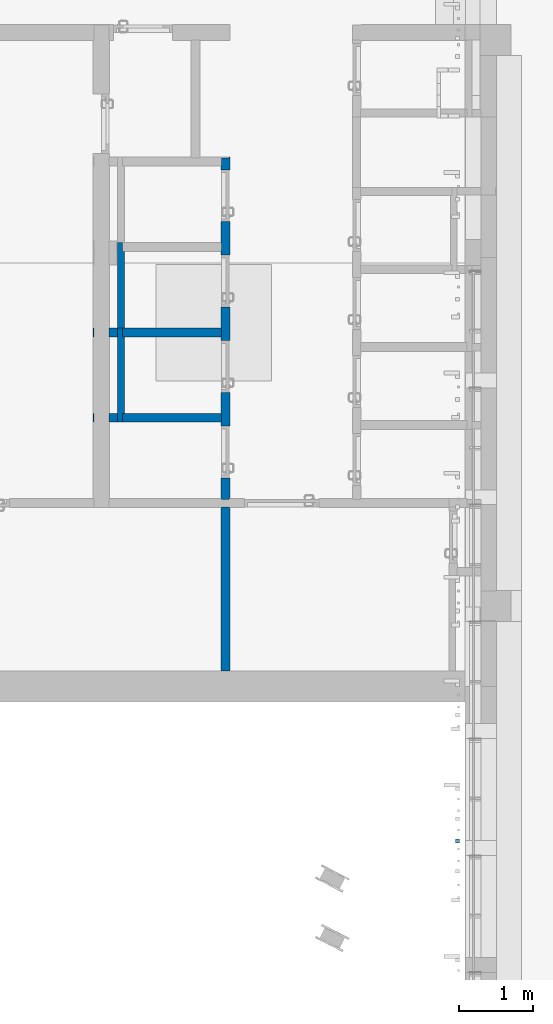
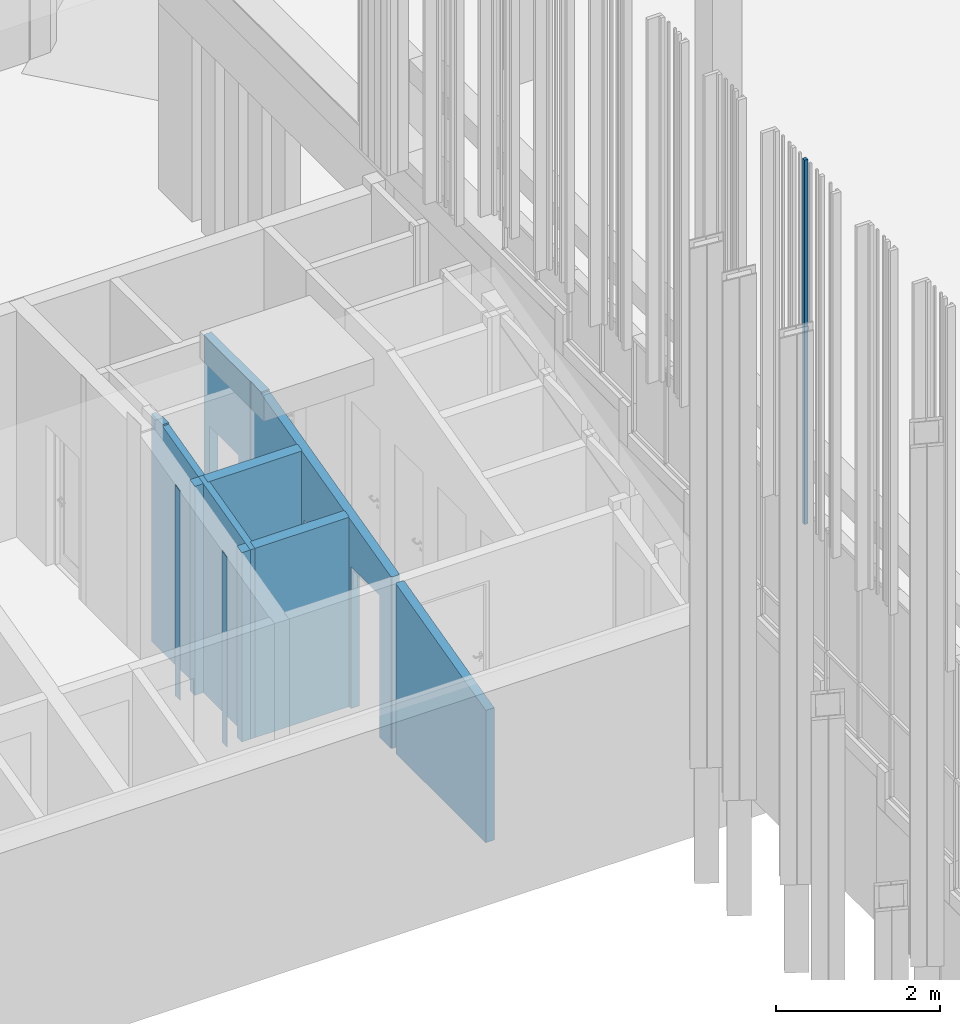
# One storey, part 114 of 390: 6 walls.
"""IFC2X3 building model written with IfcOpenShell, lengths in millimetres."""

from ifc_helpers import new_model, entity, si_unit, converted_unit, derived_unit, money_unit, direction, frame, origin_with_axes, place, context, subcontext, project, spatial, faceted_brep, material, material_list, type_object, element, save


model = new_model("IFC2X3")

# Units and contexts
model_context = context("Model", 3, precision=1e-05, world=origin_with_axes(), true_north=direction((0.0, 1.0)))
body_context = subcontext(model_context, "Body", "Model", "MODEL_VIEW")
ifc_project = project(units=[si_unit("LENGTHUNIT", "METRE", prefix="MILLI"), si_unit("AREAUNIT", "SQUARE_METRE"), si_unit("VOLUMEUNIT", "CUBIC_METRE"), converted_unit("PLANEANGLEUNIT", "DEGREE", entity("IfcPlaneAngleMeasure", 0.0174532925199), si_unit("PLANEANGLEUNIT", "RADIAN"), dimensions=[0, 0, 0, 0, 0, 0, 0]), si_unit("SOLIDANGLEUNIT", "STERADIAN"), money_unit("EUR"), converted_unit("TIMEUNIT", "Year", entity("IfcTimeMeasure", 31556926.0), si_unit("TIMEUNIT", "SECOND"), dimensions=[0, 0, 1, 0, 0, 0, 0]), si_unit("MASSUNIT", "GRAM", prefix="KILO"), si_unit("THERMODYNAMICTEMPERATUREUNIT", "DEGREE_CELSIUS"), si_unit("LUMINOUSINTENSITYUNIT", "LUMEN"), si_unit("ENERGYUNIT", "JOULE", prefix="MEGA"), derived_unit("THERMALCONDUCTANCEUNIT", [(si_unit("POWERUNIT", "WATT"), 1), (si_unit("LENGTHUNIT", "METRE"), -1), (si_unit("THERMODYNAMICTEMPERATUREUNIT", "KELVIN"), -1)]), derived_unit("SPECIFICHEATCAPACITYUNIT", [(si_unit("ENERGYUNIT", "JOULE"), 1), (si_unit("MASSUNIT", "GRAM", prefix="KILO"), -1), (si_unit("THERMODYNAMICTEMPERATUREUNIT", "KELVIN"), -1)]), derived_unit("MASSDENSITYUNIT", [(si_unit("MASSUNIT", "GRAM", prefix="KILO"), 1), (si_unit("VOLUMEUNIT", "CUBIC_METRE"), -1)])], contexts=[model_context])

# Site, building, storey
site_placement = place(None, origin_with_axes())
site = spatial("IfcSite", under=ifc_project, at=site_placement, Name="Site", CompositionType="ELEMENT")
building_placement = place(site_placement, origin_with_axes())
building = spatial("IfcBuilding", under=site, at=building_placement, Name="Building", CompositionType="ELEMENT")
storey_placement = place(building_placement, origin_with_axes())
storey = spatial("IfcBuildingStorey", under=building, at=storey_placement, Name="1 korrus", CompositionType="ELEMENT", Elevation=0.0)

# Walls
ifc_material_1 = material(Name="Site specified")
wall_type_1 = type_object("IfcWallType", Name="Puitfassaadi ribistik", PredefinedType="NOTDEFINED")
wall_1_placement = place(storey_placement, frame((122387.999996, 56507.9997856, 4424.99966101), z_axis=(0.0, 0.0, 1.0), x_axis=(0.0, 1.0, 0.0)))
element("IfcWall", 1, at=wall_1_placement, inside=storey, type_object=wall_type_1, material=ifc_material_1, Name="Site specified", context=body_context, shape_type="Brep", body=[
    faceted_brep([(-25.0, -25.0, 5440.00033899), (-25.0, -25.0, 0.0), (25.0, -25.0, 0.0), (25.0, -25.0, 5440.00033899), (-25.0, 25.0, 5440.00033899), (-25.0, 25.0, 0.0), (25.0, 25.0, 0.0), (25.0, 25.0, 5440.00033899)], [[[0, 1, 2, 3]], [[4, 5, 1, 0]], [[2, 1, 5, 6]], [[3, 2, 6, 7]], [[4, 0, 3, 7]], [[7, 6, 5, 4]]]),
])
ifc_material_2 = material(Name="Krohv - Lubjakivi")
ifc_material_3 = material(Name="Müüriplokk - Konstuktsioon")
ifc_material_list_1 = material_list([ifc_material_2, ifc_material_2, ifc_material_3, ifc_material_3, ifc_material_2, ifc_material_2, ifc_material_2, ifc_material_2, ifc_material_2])
wall_type_2 = type_object("IfcWallType", Name="SS-07", PredefinedType="NOTDEFINED")
wall_2_placement = place(storey_placement, frame((119319.999993, 65600.0000097, -620.0), z_axis=(0.0, 0.0, 1.0), x_axis=(0.0, -1.0, 0.0)))
element("IfcWall", 2, at=wall_2_placement, inside=storey, type_object=wall_type_2, material=ifc_material_list_1, Name="SS-07", context=body_context, shape_type="Brep", body=[
    faceted_brep([(-120.000000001, -10.0, 3395.23675944), (-120.0, 0.0, 3395.23675944), (-120.0, 0.0, 0.0), (-120.000000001, -10.0, 0.0), (1303.6814369, 0.0, 3395.23675944), (1303.6814369, -10.0, 3395.23675944), (1303.68143634, 0.0, 3372.0622655), (4479.99999952, 0.0, 2565.38011556), (4479.99999952, 0.0, 0.0), (4199.99999946, 0.0, 0.0), (4199.99999946, 0.0, 20.0), (4199.99999946, 0.0, 2120.0), (3499.99999946, 0.0, 2120.0), (3499.99999946, 0.0, 20.0), (3499.99999946, 0.0, 0.0), (3049.99999946, 0.0, 0.0), (3049.99999946, 0.0, 20.0), (3049.99999946, 0.0, 2120.0), (2349.99999946, 0.0, 2120.0), (2349.99999946, 0.0, 20.0), (2349.99999946, 0.0, 0.0), (1899.99999946, 0.0, 0.0), (1899.99999946, 0.0, 20.0), (1899.99999946, 0.0, 2120.0), (1199.99999946, 0.0, 2120.0), (1199.99999946, 0.0, 20.0), (1199.99999946, 0.0, 0.0), (749.999999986, 0.0, 0.0), (749.999999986, 0.0, 20.0), (749.999999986, 0.0, 2120.0), (49.999999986, 0.0, 2120.0), (49.999999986, 0.0, 20.0), (49.999999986, 0.0, 0.0), (49.999999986, -10.0, 0.0), (49.999999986, -10.0, 20.0), (49.999999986, -10.0, 2120.0), (749.999999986, -10.0, 2120.0), (749.999999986, -10.0, 20.0), (749.999999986, -10.0, 0.0), (1199.99999946, -10.0, 0.0), (1199.99999946, -10.0, 20.0), (1199.99999946, -10.0, 2120.0), (1899.99999946, -10.0, 2120.0), (1899.99999946, -10.0, 20.0), (1899.99999946, -10.0, 0.0), (2349.99999946, -10.0, 0.0), (2349.99999946, -10.0, 20.0), (2349.99999946, -10.0, 2120.0), (3049.99999946, -10.0, 2120.0), (3049.99999946, -10.0, 20.0), (3049.99999946, -10.0, 0.0), (3499.99999946, -10.0, 0.0), (3499.99999946, -10.0, 20.0), (3499.99999946, -10.0, 2120.0), (4199.99999946, -10.0, 2120.0), (4199.99999946, -10.0, 20.0), (4199.99999946, -10.0, 0.0), (4479.99999952, -10.0, 0.0), (4479.99999952, -10.0, 2565.38011556), (1303.68143634, -10.0, 3372.0622655)], [[[0, 1, 2, 3]], [[4, 1, 0, 5]], [[1, 4, 6, 7, 8, 9, 10, 11, 12, 13, 14, 15, 16, 17, 18, 19, 20, 21, 22, 23, 24, 25, 26, 27, 28, 29, 30, 31, 32, 2]], [[3, 2, 32, 33]], [[5, 0, 3, 33, 34, 35, 36, 37, 38, 39, 40, 41, 42, 43, 44, 45, 46, 47, 48, 49, 50, 51, 52, 53, 54, 55, 56, 57, 58, 59]], [[4, 5, 59, 6]], [[58, 7, 6, 59]], [[8, 7, 58, 57]], [[8, 57, 56, 9]], [[9, 56, 55, 10]], [[55, 54, 11, 10]], [[54, 53, 12, 11]], [[53, 52, 13, 12]], [[51, 14, 13, 52]], [[50, 15, 14, 51]], [[50, 49, 16, 15]], [[48, 17, 16, 49]], [[47, 18, 17, 48]], [[46, 19, 18, 47]], [[20, 19, 46, 45]], [[44, 21, 20, 45]], [[43, 22, 21, 44]], [[23, 22, 43, 42]], [[24, 23, 42, 41]], [[25, 24, 41, 40]], [[25, 40, 39, 26]], [[38, 27, 26, 39]], [[28, 27, 38, 37]], [[28, 37, 36, 29]], [[29, 36, 35, 30]], [[30, 35, 34, 31]], [[34, 33, 32, 31]]]),
    faceted_brep([(4599.99999952, -10.0, 2534.90399798), (4599.99999952, 0.0, 2534.90399798), (4599.99999952, 0.0, 0.0), (4599.99999952, -10.0, 0.0), (6800.00000013, 0.0, 1976.17517558), (6800.00000013, -10.0, 1976.17517558), (6800.00000013, 0.0, 0.0), (6800.00000013, -10.0, 0.0)], [[[0, 1, 2, 3]], [[4, 1, 0, 5]], [[1, 4, 6, 2]], [[6, 7, 3, 2]], [[5, 0, 3, 7]], [[4, 5, 7, 6]]]),
    faceted_brep([(-110.000000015, -110.0, 3395.23675944), (-110.000000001, -10.0, 3395.23675944), (-110.000000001, -10.0, 0.0), (-110.000000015, -110.0, 0.0), (1303.6814369, -10.0, 3395.23675944), (1303.6814369, -110.0, 3395.23675944), (1303.68143634, -10.0, 3372.0622655), (4489.99999952, -10.0, 2562.84043909), (4489.99999952, -10.0, 0.0), (4199.99999946, -10.0, 0.0), (4199.99999946, -10.0, 20.0), (4199.99999946, -10.0, 2120.0), (3499.99999946, -10.0, 2120.0), (3499.99999946, -10.0, 20.0), (3499.99999946, -10.0, 0.0), (3049.99999946, -10.0, 0.0), (3049.99999946, -10.0, 20.0), (3049.99999946, -10.0, 2120.0), (2349.99999946, -10.0, 2120.0), (2349.99999946, -10.0, 20.0), (2349.99999946, -10.0, 0.0), (1899.99999946, -10.0, 0.0), (1899.99999946, -10.0, 20.0), (1899.99999946, -10.0, 2120.0), (1199.99999946, -10.0, 2120.0), (1199.99999946, -10.0, 20.0), (1199.99999946, -10.0, 0.0), (749.999999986, -10.0, 0.0), (749.999999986, -10.0, 20.0), (749.999999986, -10.0, 2120.0), (49.999999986, -10.0, 2120.0), (49.999999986, -10.0, 20.0), (49.999999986, -10.0, 0.0), (49.999999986, -110.0, 0.0), (49.999999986, -110.0, 20.0), (49.999999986, -110.0, 2120.0), (749.999999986, -110.0, 2120.0), (749.999999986, -110.0, 20.0), (749.999999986, -110.0, 0.0), (1199.99999946, -110.0, 0.0), (1199.99999946, -110.0, 20.0), (1199.99999946, -110.0, 2120.0), (1899.99999946, -110.0, 2120.0), (1899.99999946, -110.0, 20.0), (1899.99999946, -110.0, 0.0), (2349.99999946, -110.0, 0.0), (2349.99999946, -110.0, 20.0), (2349.99999946, -110.0, 2120.0), (3049.99999946, -110.0, 2120.0), (3049.99999946, -110.0, 20.0), (3049.99999946, -110.0, 0.0), (3499.99999946, -110.0, 0.0), (3499.99999946, -110.0, 20.0), (3499.99999946, -110.0, 2120.0), (4199.99999946, -110.0, 2120.0), (4199.99999946, -110.0, 20.0), (4199.99999946, -110.0, 0.0), (4489.99999952, -110.0, 0.0), (4489.99999952, -110.0, 2562.84043909), (1303.68143634, -110.0, 3372.0622655)], [[[0, 1, 2, 3]], [[4, 1, 0, 5]], [[1, 4, 6, 7, 8, 9, 10, 11, 12, 13, 14, 15, 16, 17, 18, 19, 20, 21, 22, 23, 24, 25, 26, 27, 28, 29, 30, 31, 32, 2]], [[3, 2, 32, 33]], [[5, 0, 3, 33, 34, 35, 36, 37, 38, 39, 40, 41, 42, 43, 44, 45, 46, 47, 48, 49, 50, 51, 52, 53, 54, 55, 56, 57, 58, 59]], [[4, 5, 59, 6]], [[58, 7, 6, 59]], [[8, 7, 58, 57]], [[8, 57, 56, 9]], [[9, 56, 55, 10]], [[55, 54, 11, 10]], [[54, 53, 12, 11]], [[53, 52, 13, 12]], [[51, 14, 13, 52]], [[50, 15, 14, 51]], [[50, 49, 16, 15]], [[48, 17, 16, 49]], [[47, 18, 17, 48]], [[46, 19, 18, 47]], [[20, 19, 46, 45]], [[44, 21, 20, 45]], [[43, 22, 21, 44]], [[23, 22, 43, 42]], [[24, 23, 42, 41]], [[25, 24, 41, 40]], [[25, 40, 39, 26]], [[38, 27, 26, 39]], [[28, 27, 38, 37]], [[28, 37, 36, 29]], [[29, 36, 35, 30]], [[30, 35, 34, 31]], [[34, 33, 32, 31]]]),
    faceted_brep([(4589.99999952, -110.0, 2537.44367445), (4589.99999952, -10.0, 2537.44367445), (4589.99999952, -10.0, 0.0), (4589.99999952, -110.0, 0.0), (6800.00000013, -10.0, 1976.17517558), (6800.00000013, -110.0, 1976.17517558), (6800.00000013, -10.0, 0.0), (6800.00000013, -110.0, 0.0)], [[[0, 1, 2, 3]], [[4, 1, 0, 5]], [[1, 4, 6, 2]], [[6, 7, 3, 2]], [[5, 0, 3, 7]], [[4, 5, 7, 6]]]),
    faceted_brep([(1139.9999992, -120.0, 3395.23675944), (1139.9999992, -110.0, 3395.23675944), (1139.9999992, -110.0, 0.0), (1139.9999992, -120.0, 0.0), (1303.6814369, -110.0, 3395.23675944), (1303.68143689, -120.0, 3395.23675944), (1303.68143634, -110.0, 3372.0622655), (2189.9999992, -110.0, 3146.96602607), (2189.9999992, -110.0, 0.0), (1899.99999946, -110.0, 0.0), (1899.99999946, -110.0, 20.0), (1899.99999946, -110.0, 2120.0), (1199.99999946, -110.0, 2120.0), (1199.99999946, -110.0, 20.0), (1199.99999946, -110.0, 0.0), (1199.99999946, -120.0, 0.0), (1199.99999946, -120.0, 20.0), (1199.99999946, -120.0, 2120.0), (1899.99999946, -120.0, 2120.0), (1899.99999946, -120.0, 20.0), (1899.99999946, -120.0, 0.0), (2189.9999992, -120.0, 0.0), (2189.9999992, -120.0, 3146.96602607), (1303.68143634, -120.0, 3372.0622655)], [[[0, 1, 2, 3]], [[4, 1, 0, 5]], [[1, 4, 6, 7, 8, 9, 10, 11, 12, 13, 14, 2]], [[15, 3, 2, 14]], [[5, 0, 3, 15, 16, 17, 18, 19, 20, 21, 22, 23]], [[4, 5, 23, 6]], [[22, 7, 6, 23]], [[8, 7, 22, 21]], [[9, 8, 21, 20]], [[19, 10, 9, 20]], [[11, 10, 19, 18]], [[12, 11, 18, 17]], [[13, 12, 17, 16]], [[13, 16, 15, 14]]]),
    faceted_brep([(-10.0000000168, -120.0, 3395.23675944), (-10.0000000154, -110.0, 3395.23675944), (-10.0000000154, -110.0, 0.0), (-10.0000000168, -120.0, 0.0), (1039.9999992, -110.0, 3395.23675944), (1039.9999992, -120.0, 3395.23675944), (1039.9999992, -110.0, 0.0), (749.999999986, -110.0, 0.0), (749.999999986, -110.0, 20.0), (749.999999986, -110.0, 2120.0), (49.999999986, -110.0, 2120.0), (49.999999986, -110.0, 20.0), (49.999999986, -110.0, 0.0), (49.999999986, -120.0, 0.0), (49.999999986, -120.0, 20.0), (49.999999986, -120.0, 2120.0), (749.999999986, -120.0, 2120.0), (749.999999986, -120.0, 20.0), (749.999999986, -120.0, 0.0), (1039.9999992, -120.0, 0.0)], [[[0, 1, 2, 3]], [[4, 1, 0, 5]], [[1, 4, 6, 7, 8, 9, 10, 11, 12, 2]], [[12, 13, 3, 2]], [[5, 0, 3, 13, 14, 15, 16, 17, 18, 19]], [[4, 5, 19, 6]], [[18, 7, 6, 19]], [[18, 17, 8, 7]], [[16, 9, 8, 17]], [[15, 10, 9, 16]], [[14, 11, 10, 15]], [[12, 11, 14, 13]]]),
    faceted_brep([(4599.99999952, -120.0, 2534.90399798), (4599.99999952, -110.0, 2534.90399798), (4599.99999952, -110.0, 0.0), (4599.99999952, -120.0, 0.0), (6800.00000013, -110.0, 1976.17517558), (6800.00000013, -120.0, 1976.17517558), (6800.00000013, -110.0, 0.0), (6800.00000013, -120.0, 0.0)], [[[0, 1, 2, 3]], [[4, 1, 0, 5]], [[1, 4, 6, 2]], [[2, 6, 7, 3]], [[5, 0, 3, 7]], [[4, 5, 7, 6]]]),
    faceted_brep([(3439.99999942, -120.0, 2829.50646792), (3439.99999942, -110.0, 2829.50646792), (3439.99999942, -110.0, 0.0), (3439.99999942, -120.0, 0.0), (4479.99999952, -110.0, 2565.38011556), (4479.99999952, -120.0, 2565.38011556), (4479.99999952, -110.0, 0.0), (4199.99999946, -110.0, 0.0), (4199.99999946, -110.0, 20.0), (4199.99999946, -110.0, 2120.0), (3499.99999946, -110.0, 2120.0), (3499.99999946, -110.0, 20.0), (3499.99999946, -110.0, 0.0), (3499.99999946, -120.0, 0.0), (3499.99999946, -120.0, 20.0), (3499.99999946, -120.0, 2120.0), (4199.99999946, -120.0, 2120.0), (4199.99999946, -120.0, 20.0), (4199.99999946, -120.0, 0.0), (4479.99999952, -120.0, 0.0)], [[[0, 1, 2, 3]], [[4, 1, 0, 5]], [[1, 4, 6, 7, 8, 9, 10, 11, 12, 2]], [[3, 2, 12, 13]], [[5, 0, 3, 13, 14, 15, 16, 17, 18, 19]], [[4, 5, 19, 6]], [[6, 19, 18, 7]], [[18, 17, 8, 7]], [[16, 9, 8, 17]], [[15, 10, 9, 16]], [[14, 11, 10, 15]], [[12, 11, 14, 13]]]),
    faceted_brep([(2289.9999992, -120.0, 3121.56926142), (2289.9999992, -110.0, 3121.56926142), (2289.9999992, -110.0, 0.0), (2289.9999992, -120.0, 0.0), (3339.99999942, -110.0, 2854.90323256), (3339.99999942, -120.0, 2854.90323256), (3339.99999942, -110.0, 0.0), (3049.99999946, -110.0, 0.0), (3049.99999946, -110.0, 20.0), (3049.99999946, -110.0, 2120.0), (2349.99999946, -110.0, 2120.0), (2349.99999946, -110.0, 20.0), (2349.99999946, -110.0, 0.0), (2349.99999946, -120.0, 0.0), (2349.99999946, -120.0, 20.0), (2349.99999946, -120.0, 2120.0), (3049.99999946, -120.0, 2120.0), (3049.99999946, -120.0, 20.0), (3049.99999946, -120.0, 0.0), (3339.99999942, -120.0, 0.0)], [[[0, 1, 2, 3]], [[4, 1, 0, 5]], [[1, 4, 6, 7, 8, 9, 10, 11, 12, 2]], [[3, 2, 12, 13]], [[5, 0, 3, 13, 14, 15, 16, 17, 18, 19]], [[4, 5, 19, 6]], [[6, 19, 18, 7]], [[17, 8, 7, 18]], [[9, 8, 17, 16]], [[10, 9, 16, 15]], [[11, 10, 15, 14]], [[11, 14, 13, 12]]]),
])
ifc_material_list_2 = material_list([ifc_material_2, ifc_material_2, ifc_material_2, ifc_material_3, ifc_material_3, ifc_material_3, ifc_material_2, ifc_material_2, ifc_material_2])
wall_3_placement = place(storey_placement, frame((117479.999993, 63300.0000105, -620.0), z_axis=(0.0, 0.0, 1.0), x_axis=(1.0, -3.86149083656e-10, 0.0)))
element("IfcWall", 3, at=wall_3_placement, inside=storey, type_object=wall_type_2, material=ifc_material_list_2, Name="SS-07", context=body_context, shape_type="Brep", body=[
    faceted_brep([(209.999999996, 120.000000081, 3149.50570253), (330.000000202, 120.000000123, 3149.50570253), (330.000000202, 120.0, 0.0), (209.999999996, 120.000000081, 0.0), (330.000000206, 110.000000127, 3146.96602607), (209.999999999, 110.000000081, 3146.96602607), (330.000000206, 110.000000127, 0.0), (209.999999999, 110.000000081, 0.0)], [[[0, 1, 2, 3]], [[4, 1, 0, 5]], [[1, 4, 6, 2]], [[3, 2, 6, 7]], [[5, 0, 3, 7]], [[4, 5, 7, 6]]]),
    faceted_brep([(396.000000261, 120.000000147, 3149.50570253), (1720.00000028, 120.000000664, 3149.50570253), (1720.00000028, 120.000000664, 0.0), (396.000000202, 120.0, 0.0), (1720.00000028, 110.000000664, 3146.96602607), (396.000000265, 110.000000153, 3146.96602607), (1720.00000028, 110.000000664, 0.0), (396.000000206, 110.000000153, 0.0)], [[[0, 1, 2, 3]], [[4, 1, 0, 5]], [[1, 4, 6, 2]], [[6, 7, 3, 2]], [[5, 0, 3, 7]], [[4, 5, 7, 6]]]),
    faceted_brep([(-4.63415972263e-08, 120.0, 3149.50570253), (9.99999999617, 120.000000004, 3149.50570253), (9.99999999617, 120.000000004, 0.0), (-4.63415972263e-08, 120.0, 0.0), (9.99999999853, 110.000000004, 3146.96602607), (-4.24762447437e-08, 110.0, 3146.96602607), (9.99999999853, 110.000000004, 0.0), (-4.24762447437e-08, 110.0, 0.0)], [[[0, 1, 2, 3]], [[4, 1, 0, 5]], [[1, 4, 6, 2]], [[2, 6, 7, 3]], [[5, 0, 3, 7]], [[4, 5, 7, 6]]]),
    faceted_brep([(209.999999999, 110.000000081, 3146.96602607), (330.000000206, 110.000000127, 3146.96602607), (330.000000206, 110.000000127, 0.0), (209.999999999, 110.000000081, 0.0), (330.000000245, 10.0000001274, 3121.56926142), (210.000000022, 10.0000000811, 3121.56926142), (330.000000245, 10.0000001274, 0.0), (210.000000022, 10.0000000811, 0.0)], [[[0, 1, 2, 3]], [[4, 1, 0, 5]], [[1, 4, 6, 2]], [[3, 2, 6, 7]], [[5, 0, 3, 7]], [[4, 5, 7, 6]]]),
    faceted_brep([(396.000000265, 110.000000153, 3146.96602607), (1730.00000028, 110.000000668, 3146.96602607), (1730.00000028, 110.000000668, 0.0), (396.000000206, 110.000000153, 0.0), (1730.00000032, 10.000000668, 3121.56926142), (396.000000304, 10.0000001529, 3121.56926142), (1730.00000032, 10.000000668, 0.0), (396.000000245, 10.0000001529, 0.0)], [[[0, 1, 2, 3]], [[4, 1, 0, 5]], [[1, 4, 6, 2]], [[6, 7, 3, 2]], [[5, 0, 3, 7]], [[4, 5, 7, 6]]]),
    faceted_brep([(-4.24762447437e-08, 110.0, 3146.96602607), (9.99999999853, 110.000000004, 3146.96602607), (9.99999999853, 110.000000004, 0.0), (-4.24762447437e-08, 110.0, 0.0), (10.0000000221, 10.0000000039, 3121.56926142), (-3.86535248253e-09, 10.0, 3121.56926142), (10.0000000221, 10.0000000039, 0.0), (-3.86535248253e-09, 10.0, 0.0)], [[[0, 1, 2, 3]], [[4, 1, 0, 5]], [[1, 4, 6, 2]], [[2, 6, 7, 3]], [[5, 0, 3, 7]], [[4, 5, 7, 6]]]),
    faceted_brep([(210.000000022, 10.0000000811, 3121.56926142), (330.000000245, 10.0000001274, 3121.56926142), (330.000000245, 10.0000001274, 0.0), (210.000000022, 10.0000000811, 0.0), (330.000000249, -2.71498379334e-08, 3119.02958492), (210.000000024, 8.10942424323e-08, 3119.02958496), (330.000000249, 1.27428734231e-07, 0.0), (210.000000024, 8.10942424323e-08, 0.0)], [[[0, 1, 2, 3]], [[4, 1, 0, 5]], [[1, 4, 6, 2]], [[3, 2, 6, 7]], [[5, 0, 3, 7]], [[4, 5, 7, 6]]]),
    faceted_brep([(396.000000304, 10.0000001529, 3121.56926142), (1720.00000032, 10.0000006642, 3121.56926142), (1720.00000032, 10.0000006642, 0.0), (396.000000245, 10.0000001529, 0.0), (1720.00000032, 6.64179822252e-07, 3119.02958496), (396.000000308, 1.36886058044e-07, 3119.02958495), (1720.00000032, 6.64179822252e-07, 0.0), (396.000000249, 1.52915902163e-07, 0.0)], [[[0, 1, 2, 3]], [[4, 1, 0, 5]], [[1, 4, 6, 2]], [[6, 7, 3, 2]], [[5, 0, 3, 7]], [[4, 5, 7, 6]]]),
    faceted_brep([(-3.86535248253e-09, 10.0, 3121.56926142), (10.0000000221, 10.0000000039, 3121.56926142), (10.0000000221, 10.0000000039, 0.0), (-3.86535248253e-09, 10.0, 0.0), (10.0000000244, 3.86535248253e-09, 3119.02958496), (0.0, 0.0, 3119.02958496), (10.0000000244, 3.86535248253e-09, 0.0), (0.0, 0.0, 0.0)], [[[0, 1, 2, 3]], [[4, 1, 0, 5]], [[1, 4, 6, 2]], [[2, 6, 7, 3]], [[5, 0, 3, 7]], [[4, 5, 7, 6]]]),
])
wall_4_placement = place(storey_placement, frame((117479.999992, 62150.0000103, -620.0), z_axis=(0.0, 0.0, 1.0), x_axis=(1.0, 0.0, 0.0)))
element("IfcWall", 4, at=wall_4_placement, inside=storey, type_object=wall_type_2, material=ifc_material_list_2, Name="SS-07", context=body_context, shape_type="Brep", body=[
    faceted_brep([(396.00000041, 120.0, 2857.44290903), (1720.00000048, 120.0, 2857.44290903), (1720.00000048, 120.0, 0.0), (396.00000041, 120.0, 0.0), (1720.00000048, 110.0, 2854.90323256), (396.00000041, 110.0, 2854.90323256), (1720.00000048, 110.0, 0.0), (396.00000041, 110.0, 0.0)], [[[0, 1, 2, 3]], [[4, 1, 0, 5]], [[1, 4, 6, 2]], [[2, 6, 7, 3]], [[5, 0, 3, 7]], [[4, 5, 7, 6]]]),
    faceted_brep([(210.00000003, 120.0, 2857.44290903), (330.00000041, 120.0, 2857.44290903), (330.00000041, 120.0, 0.0), (210.00000003, 120.0, 0.0), (330.00000041, 110.0, 2854.90323256), (210.000000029, 110.0, 2854.90323256), (330.00000041, 110.0, 0.0), (210.000000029, 110.0, 0.0)], [[[0, 1, 2, 3]], [[4, 1, 0, 5]], [[1, 4, 6, 2]], [[2, 6, 7, 3]], [[5, 0, 3, 7]], [[4, 5, 7, 6]]]),
    faceted_brep([(0.0, 120.0, 2857.44290903), (10.0000000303, 120.0, 2857.44290903), (10.0000000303, 120.0, 0.0), (0.0, 120.0, 0.0), (10.0000000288, 110.0, 2854.90323256), (0.0, 110.0, 2854.90323256), (10.0000000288, 110.0, 0.0), (0.0, 110.0, 0.0)], [[[0, 1, 2, 3]], [[4, 1, 0, 5]], [[1, 4, 6, 2]], [[2, 6, 7, 3]], [[5, 0, 3, 7]], [[4, 5, 7, 6]]]),
    faceted_brep([(396.00000041, 110.0, 2854.90323256), (1730.00000048, 110.0, 2854.90323256), (1730.00000048, 110.0, 0.0), (396.00000041, 110.0, 0.0), (1730.00000048, 10.0, 2829.50646792), (396.00000041, 10.0, 2829.50646792), (1730.00000048, 10.0, 0.0), (396.00000041, 10.0, 0.0)], [[[0, 1, 2, 3]], [[4, 1, 0, 5]], [[1, 4, 6, 2]], [[2, 6, 7, 3]], [[5, 0, 3, 7]], [[4, 5, 7, 6]]]),
    faceted_brep([(210.000000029, 110.0, 2854.90323256), (330.00000041, 110.0, 2854.90323256), (330.00000041, 110.0, 0.0), (210.000000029, 110.0, 0.0), (330.00000041, 10.0, 2829.50646792), (210.000000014, 10.0, 2829.50646792), (330.00000041, 10.0, 0.0), (210.000000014, 10.0, 0.0)], [[[0, 1, 2, 3]], [[4, 1, 0, 5]], [[1, 4, 6, 2]], [[2, 6, 7, 3]], [[5, 0, 3, 7]], [[4, 5, 7, 6]]]),
    faceted_brep([(0.0, 110.0, 2854.90323256), (10.0000000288, 110.0, 2854.90323256), (10.0000000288, 110.0, 0.0), (0.0, 110.0, 0.0), (10.0000000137, 10.0, 2829.50646792), (0.0, 10.0, 2829.50646792), (10.0000000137, 10.0, 0.0), (0.0, 10.0, 0.0)], [[[0, 1, 2, 3]], [[4, 1, 0, 5]], [[1, 4, 6, 2]], [[2, 6, 7, 3]], [[5, 0, 3, 7]], [[4, 5, 7, 6]]]),
    faceted_brep([(396.00000041, 10.0, 2829.50646792), (1720.00000048, 10.0, 2829.50646792), (1720.00000048, 10.0, 0.0), (396.00000041, 10.0, 0.0), (1720.00000048, 0.0, 2826.96679145), (396.00000041, 0.0, 2826.96679145), (1720.00000048, 0.0, 0.0), (396.00000041, 0.0, 0.0)], [[[0, 1, 2, 3]], [[4, 1, 0, 5]], [[1, 4, 6, 2]], [[2, 6, 7, 3]], [[5, 0, 3, 7]], [[4, 5, 7, 6]]]),
    faceted_brep([(210.000000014, 10.0, 2829.50646792), (330.00000041, 10.0, 2829.50646792), (330.00000041, 10.0, 0.0), (210.000000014, 10.0, 0.0), (330.00000041, 0.0, 2826.96679145), (210.000000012, 0.0, 2826.96679145), (330.00000041, 0.0, 0.0), (210.000000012, 0.0, 0.0)], [[[0, 1, 2, 3]], [[4, 1, 0, 5]], [[1, 4, 6, 2]], [[2, 6, 7, 3]], [[5, 0, 3, 7]], [[4, 5, 7, 6]]]),
    faceted_brep([(0.0, 10.0, 2829.50646792), (10.0000000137, 10.0, 2829.50646792), (10.0000000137, 10.0, 0.0), (0.0, 10.0, 0.0), (10.0000000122, 0.0, 2826.96679145), (0.0, 0.0, 2826.96679145), (10.0000000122, 0.0, 0.0), (0.0, 0.0, 0.0)], [[[0, 1, 2, 3]], [[4, 1, 0, 5]], [[1, 4, 6, 2]], [[2, 6, 7, 3]], [[5, 0, 3, 7]], [[4, 5, 7, 6]]]),
])
ifc_material_4 = material(Name="Kipsplaat - Veekindel")
ifc_material_5 = material(Name="Teras")
ifc_material_list_3 = material_list([ifc_material_4, ifc_material_4, ifc_material_5])
wall_type_3 = type_object("IfcWallType", Name="SS-14", PredefinedType="NOTDEFINED")
wall_5_placement = place(storey_placement, frame((117899.999993, 64450.0000105, -620.0), z_axis=(0.0, 0.0, 1.0), x_axis=(0.0, -1.0, 0.0)))
element("IfcWall", 5, at=wall_5_placement, inside=storey, type_object=wall_type_3, material=ifc_material_list_3, Name="SS-14", context=body_context, shape_type="Brep", body=[
    faceted_brep([(153.68143707, -12.0, 3395.23675944), (153.681437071, 0.0, 3395.23675944), (0.0, -1.84641635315e-07, 3395.23675944), (0.0, -12.0, 3395.23675944), (153.681437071, 0.0, 3372.06226552), (153.68143707, -12.0, 3372.06226552), (1030.0, -1.14731335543e-06, 3149.50570253), (1030.00000008, 0.0, 0.0), (0.0, 0.0, 0.0), (0.0, -12.0, 0.0), (1030.00000008, -12.0, 0.0), (1030.0, -12.0, 3149.50570253)], [[[0, 1, 2, 3]], [[4, 1, 0, 5]], [[4, 6, 7, 8, 2, 1]], [[9, 3, 2, 8]], [[5, 0, 3, 9, 10, 11]], [[6, 4, 5, 11]], [[6, 11, 10, 7]], [[9, 8, 7, 10]]]),
    faceted_brep([(153.681437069, -24.0, 3395.23675944), (153.68143707, -12.0, 3395.23675944), (0.0, -12.0, 3395.23675944), (0.0, -23.9999999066, 3395.23675944), (153.68143707, -12.0, 3372.06226552), (153.681437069, -24.0, 3372.06226552), (1030.0, -12.0, 3149.50570253), (1030.00000008, -12.0, 0.0), (0.0, -12.0, 0.0), (0.0, -24.0, 0.0), (1030.00000008, -24.0, 0.0), (1030.00000008, -24.0000001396, 3149.50570251)], [[[0, 1, 2, 3]], [[4, 1, 0, 5]], [[4, 6, 7, 8, 2, 1]], [[9, 3, 2, 8]], [[5, 0, 3, 9, 10, 11]], [[6, 4, 5, 11]], [[6, 11, 10, 7]], [[9, 8, 7, 10]]]),
    faceted_brep([(153.681437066, -90.0, 3395.23675944), (153.681437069, -24.0000001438, 3395.23675944), (-120.0, -23.9999999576, 3395.23675944), (-120.0, -90.0, 3395.23675944), (153.681437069, -24.0000001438, 3372.06226552), (153.681437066, -90.0, 3372.06226552), (1030.00000015, -24.0000001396, 3149.50570249), (1030.00000015, -24.0, 0.0), (-120.0, -24.0, 0.0), (-120.0, -90.0, 0.0), (1030.00000013, -90.0, 0.0), (1030.00000013, -90.0, 3149.5057025)], [[[0, 1, 2, 3]], [[4, 1, 0, 5]], [[4, 6, 7, 8, 2, 1]], [[9, 3, 2, 8]], [[5, 0, 3, 9, 10, 11]], [[6, 4, 5, 11]], [[6, 11, 10, 7]], [[9, 8, 7, 10]]]),
])
wall_6_placement = place(storey_placement, frame((117899.999993, 63300.0000103, -620.0), z_axis=(0.0, 0.0, 1.0), x_axis=(0.0, -1.0, 0.0)))
element("IfcWall", 6, at=wall_6_placement, inside=storey, type_object=wall_type_3, material=ifc_material_list_3, Name="SS-14", context=body_context, shape_type="Brep", body=[
    faceted_brep([(-4.63273863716e-09, -12.0, 3119.02958492), (0.0, 2.08899564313e-07, 3119.02958491), (0.0, 0.0, 0.0), (-4.63273863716e-09, -12.0, 0.0), (1030.00000006, 1.30053479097e-06, 2857.44290903), (1030.00000006, -12.0, 2857.44290903), (1030.00000006, 0.0, 0.0), (1030.00000006, -12.0, 0.0)], [[[0, 1, 2, 3]], [[4, 1, 0, 5]], [[1, 4, 6, 2]], [[2, 6, 7, 3]], [[5, 0, 3, 7]], [[4, 5, 7, 6]]]),
    faceted_brep([(-9.26547727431e-09, -24.0000003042, 3119.02958492), (-4.63273863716e-09, -12.0, 3119.02958492), (-4.63273863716e-09, -12.0, 0.0), (-9.26547727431e-09, -24.0, 0.0), (1030.00000006, -12.0, 2857.44290903), (1030.00000006, -24.0000018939, 2857.44290903), (1030.00000006, -12.0, 0.0), (1030.00000006, -24.0, 0.0)], [[[0, 1, 2, 3]], [[4, 1, 0, 5]], [[1, 4, 6, 2]], [[2, 6, 7, 3]], [[5, 0, 3, 7]], [[4, 5, 7, 6]]]),
    faceted_brep([(-120.000000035, -90.0, 3149.5057025), (-120.000000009, -24.0000001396, 3149.50570249), (-120.000000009, -24.0, 0.0), (-120.000000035, -90.0, 0.0), (1150.00000006, -24.0000017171, 2826.96679145), (1150.00000006, -90.0, 2826.96679145), (1150.00000006, -24.0, 0.0), (1150.00000006, -90.0, 0.0)], [[[0, 1, 2, 3]], [[4, 1, 0, 5]], [[1, 4, 6, 2]], [[3, 2, 6, 7]], [[5, 0, 3, 7]], [[4, 5, 7, 6]]]),
])

save(model, "model.ifc")
